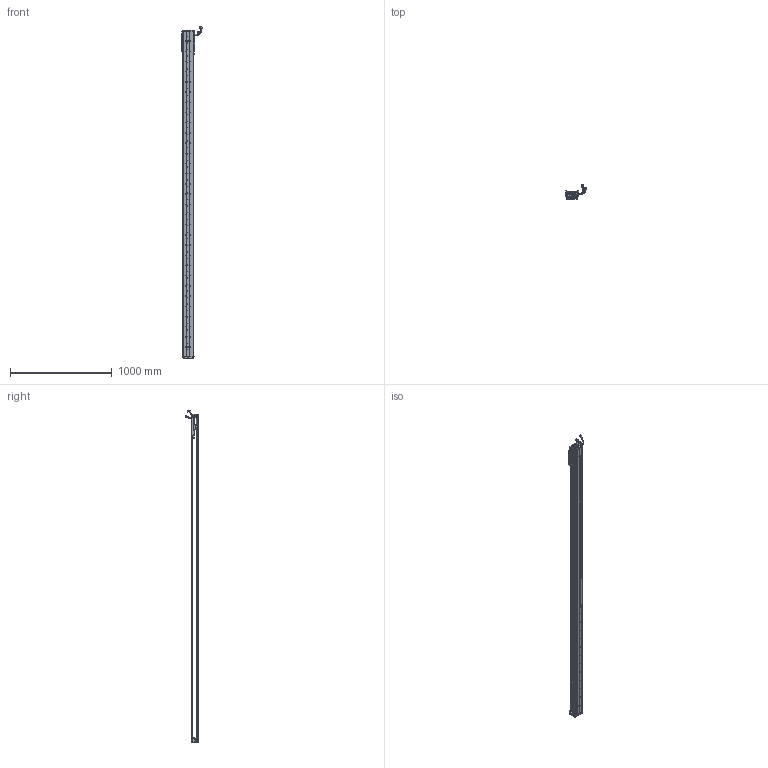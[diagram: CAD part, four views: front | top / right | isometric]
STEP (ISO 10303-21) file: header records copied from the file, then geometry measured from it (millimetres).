
FILE_DESCRIPTION (( 'STEP AP203' ), '1' );
FILE_NAME ('Z2-RY100D-1-L500-B-K.SLDASM_2950.step', '2021-05-17T02:38:45', ( '盈信电脑' ), ( '东莞市道滘镇水果街19号' ), 'SwSTEP 2.0', 'SolidWorks 2016', '' );
FILE_SCHEMA (( 'CONFIG_CONTROL_DESIGN' ));
Length unit declared in the file: millimetre
Products named in the file (36): PBU_SHEET; SCREW-M1.6; SCREW-M1.6-2; 覜茼ん672; SEAL; 080黍杅芛假蚾釱21遴; HARNESS-Part-1; LABEL; SCALE-Part-1; Z-RY100D詩湍奻揤裔; LABEL-Part-1; 140雄赽晤鎢ん堤盄; SCREW-M1.6-1; SCREW-M1.7; HARNESS; SCREW-M1.6-3; 140蚥薯蝶輸; SCALE-Part-2; Z2-RY100D-1-L500-B-K.SLDASM_2950; Z-RY100D覜茼んえ; 100-Z-臏賑輸盄裔(21遴); SCREW-M1.7-1; Z2-RY100铝滑块（21款）; HARNESS-Part-2; SEAL-Part-1; HOLDER0; PSLH080_PSLF2; 榋妏寠巭燃_暯_M2_2; Z-RY100D詩湍狟揤裔; SCALE; Z-100詩湍傷裔啣; COVER; COVER-Part-1; Z2-RY100-L500詩湍90mm遵_2950; Z2-RY100D-500-倰第菁釱_2950; SHIELDPLATE
Assembly tree (43 placements, depth 4):
  Z2-RY100D-1-L500-B-K.SLDASM_2950
    Z2-RY100D-500-倰第菁釱_2950
    Z2-RY100铝滑块（21款）
    PSLH080_PSLF2
      SCALE
        SCALE-Part-1
        SCALE-Part-2
      HARNESS
        HARNESS-Part-1
        HARNESS-Part-2
      LABEL
        LABEL-Part-1
      COVER
        COVER-Part-1
      SEAL
        SEAL-Part-1
      榋妏寠巭燃_暯_M2_2
      SHIELDPLATE
      SCREW-M1.7
      SCREW-M1.7-1
      PBU_SHEET
      SCREW-M1.6
      SCREW-M1.6-1
      SCREW-M1.6-2
      SCREW-M1.6-3
      HOLDER0
    080黍杅芛假蚾釱21遴
    Z-100詩湍傷裔啣  x2
    140蚥薯蝶輸  x2
    覜茼ん672  x3
    Z-RY100D覜茼んえ  x3
    100-Z-臏賑輸盄裔(21遴)
    140雄赽晤鎢ん堤盄
    Z2-RY100-L500詩湍90mm遵_2950
    Z-RY100D詩湍狟揤裔  x2
    Z-RY100D詩湍奻揤裔  x2
Bounding box: 205.79 x 136.11 x 3255.43 mm (x, y, z)
Volume: 5731647.3 mm3; surface area: 2283371.5 mm2
Topology: 38 solids, 38 shells, 3128 faces, 8643 edges, 5536 vertices
Faces by surface type: cylinder 1586, plane 1202, cone 218, torus 69, bspline 53
Entity records: 92231 total; most frequent: CARTESIAN_POINT 19316, DIRECTION 14923, ORIENTED_EDGE 14182, EDGE_CURVE 7091, AXIS2_PLACEMENT_3D 5639, VERTEX_POINT 4604, VECTOR 3645, LINE 3645
